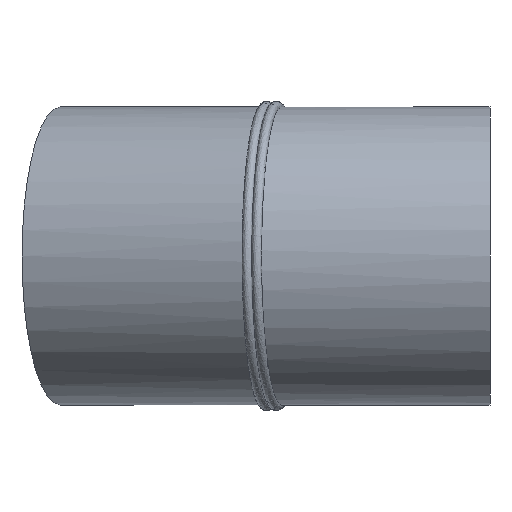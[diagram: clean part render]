
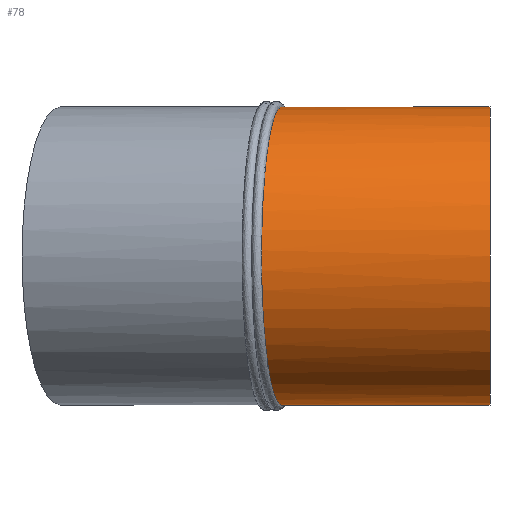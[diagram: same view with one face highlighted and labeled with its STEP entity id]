
A CAD part, left-side view. The second image highlights one B-rep face of the part: STEP entity #78.
In plain terms, the highlighted cylindrical face has radius 225 mm (diameter 450 mm), a full revolution.
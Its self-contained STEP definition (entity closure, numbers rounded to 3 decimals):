
#32=B_SPLINE_CURVE_WITH_KNOTS('',3,(#131,#132,#133,#134,#135,#136,#137,
#138,#139,#140,#141,#142,#143,#144,#145,#146,#147,#148,#149,#150,#151,#152,
#153,#154,#155,#156,#157,#158,#159,#160,#161,#162,#163,#164,#165,#166,#167,
#168,#169,#170,#171,#172,#173,#174,#175,#176,#177,#178,#179,#180,#181,#182,
#183,#184,#185,#186,#187,#188,#189,#190,#191,#192,#193,#194,#195,#196,#197,
#198,#199,#200,#201,#202,#203,#204,#205,#206,#207,#208,#209,#210,#211,#212,
#213,#214,#215,#216,#217),.UNSPECIFIED.,.T.,.F.,(1,1,1,1,1,1,1,1,1,1,1,
1,1,1,1,1,1,1,1,1,1,1,1,1,1,1,1,1,1,1,1,1,1,1,1,1,1,1,1,1,1,1,1,1,1,1,1,
1,1,1,1,1,1,1,1,1,1,1,1,1,1,1,1,1,1,1,1,1,1,1,1,1,1,1,1,1,1,1,1,1,1,1,1,
1,1,1,1,1,1,1,1),(-0.056,-0.045,-0.022,
0.,0.022,0.045,0.067,
0.089,0.1,0.111,0.134,
0.156,0.178,0.2,0.212,
0.223,0.234,0.245,0.267,
0.29,0.301,0.312,0.323,
0.334,0.345,0.356,0.379,
0.401,0.412,0.423,0.446,
0.468,0.479,0.49,0.512,
0.535,0.557,0.568,0.579,
0.601,0.624,0.646,0.668,
0.691,0.702,0.713,0.735,
0.757,0.78,0.791,0.802,
0.813,0.824,0.846,0.869,
0.891,0.902,0.913,0.936,
0.958,0.969,0.98,1.002,
1.025,1.047,1.069,1.092,1.114,
1.125,1.136,1.158,1.181,1.203,
1.225,1.236,1.247,1.259,1.27,
1.281,1.292,1.314,1.337,1.348,
1.359,1.37,1.381,1.403,1.426,
1.448,1.47,1.492),.UNSPECIFIED.);
#34=ORIENTED_EDGE('',*,*,#44,.T.);
#35=ORIENTED_EDGE('',*,*,#45,.F.);
#44=EDGE_CURVE('',#49,#49,#54,.T.);
#45=EDGE_CURVE('',#50,#50,#32,.T.);
#49=VERTEX_POINT('',#130);
#50=VERTEX_POINT('',#218);
#54=CIRCLE('',#99,225.);
#56=EDGE_LOOP('',(#34));
#57=EDGE_LOOP('',(#35));
#66=FACE_BOUND('',#56,.T.);
#67=FACE_BOUND('',#57,.T.);
#76=CYLINDRICAL_SURFACE('',#98,225.);
#78=ADVANCED_FACE('',(#66,#67),#76,.T.);
#98=AXIS2_PLACEMENT_3D('',#128,#109,#110);
#99=AXIS2_PLACEMENT_3D('',#129,#111,#112);
#109=DIRECTION('',(0.,-1.,0.));
#110=DIRECTION('',(0.,0.,-1.));
#111=DIRECTION('',(0.,1.,0.));
#112=DIRECTION('',(1.,0.,0.));
#128=CARTESIAN_POINT('',(0.,650.,0.));
#129=CARTESIAN_POINT('',(0.,0.,0.));
#130=CARTESIAN_POINT('',(225.,0.,0.));
#131=CARTESIAN_POINT('',(21.996,311.701,-224.278));
#132=CARTESIAN_POINT('',(0.03,314.616,-225.362));
#133=CARTESIAN_POINT('',(-22.115,317.559,-224.273));
#134=CARTESIAN_POINT('',(-43.805,320.447,-221.055));
#135=CARTESIAN_POINT('',(-65.084,323.283,-215.757));
#136=CARTESIAN_POINT('',(-82.476,325.607,-209.565));
#137=CARTESIAN_POINT('',(-95.933,327.406,-203.623));
#138=CARTESIAN_POINT('',(-109.13,329.172,-197.004));
#139=CARTESIAN_POINT('',(-124.909,331.286,-187.58));
#140=CARTESIAN_POINT('',(-142.754,333.679,-174.38));
#141=CARTESIAN_POINT('',(-159.,335.862,-159.696));
#142=CARTESIAN_POINT('',(-171.294,337.515,-146.209));
#143=CARTESIAN_POINT('',(-180.356,338.734,-134.676));
#144=CARTESIAN_POINT('',(-186.777,339.599,-125.621));
#145=CARTESIAN_POINT('',(-192.742,340.403,-116.26));
#146=CARTESIAN_POINT('',(-200.057,341.388,-103.431));
#147=CARTESIAN_POINT('',(-208.036,342.465,-86.663));
#148=CARTESIAN_POINT('',(-214.296,343.309,-69.27));
#149=CARTESIAN_POINT('',(-218.28,343.847,-54.956));
#150=CARTESIAN_POINT('',(-220.725,344.178,-44.118));
#151=CARTESIAN_POINT('',(-222.632,344.435,-33.182));
#152=CARTESIAN_POINT('',(-224.002,344.619,-22.127));
#153=CARTESIAN_POINT('',(-224.821,344.73,-11.027));
#154=CARTESIAN_POINT('',(-225.182,344.78,3.77));
#155=CARTESIAN_POINT('',(-224.255,344.653,22.349));
#156=CARTESIAN_POINT('',(-221.516,344.284,40.643));
#157=CARTESIAN_POINT('',(-218.233,343.841,55.143));
#158=CARTESIAN_POINT('',(-214.266,343.305,69.35));
#159=CARTESIAN_POINT('',(-208.059,342.468,86.583));
#160=CARTESIAN_POINT('',(-200.213,341.409,103.122));
#161=CARTESIAN_POINT('',(-192.94,340.429,115.932));
#162=CARTESIAN_POINT('',(-184.988,339.358,128.454));
#163=CARTESIAN_POINT('',(-173.977,337.875,143.251));
#164=CARTESIAN_POINT('',(-159.025,335.865,159.687));
#165=CARTESIAN_POINT('',(-145.342,334.027,172.035));
#166=CARTESIAN_POINT('',(-133.673,332.461,181.1));
#167=CARTESIAN_POINT('',(-121.626,330.846,189.544));
#168=CARTESIAN_POINT('',(-105.761,328.72,199.003));
#169=CARTESIAN_POINT('',(-85.799,326.051,208.39));
#170=CARTESIAN_POINT('',(-64.939,323.264,215.799));
#171=CARTESIAN_POINT('',(-43.76,320.441,221.061));
#172=CARTESIAN_POINT('',(-25.772,318.046,223.727));
#173=CARTESIAN_POINT('',(-11.199,316.108,224.811));
#174=CARTESIAN_POINT('',(3.534,314.151,225.183));
#175=CARTESIAN_POINT('',(21.856,311.72,224.298));
#176=CARTESIAN_POINT('',(43.746,308.821,221.074));
#177=CARTESIAN_POINT('',(61.553,306.466,216.636));
#178=CARTESIAN_POINT('',(75.566,304.615,212.027));
#179=CARTESIAN_POINT('',(85.859,303.257,208.071));
#180=CARTESIAN_POINT('',(95.944,301.927,203.619));
#181=CARTESIAN_POINT('',(109.135,300.189,197.002));
#182=CARTESIAN_POINT('',(124.931,298.11,187.565));
#183=CARTESIAN_POINT('',(142.769,295.766,174.371));
#184=CARTESIAN_POINT('',(156.428,293.973,162.021));
#185=CARTESIAN_POINT('',(166.652,292.632,151.305));
#186=CARTESIAN_POINT('',(176.271,291.371,140.17));
#187=CARTESIAN_POINT('',(187.175,289.943,125.5));
#188=CARTESIAN_POINT('',(196.611,288.709,109.834));
#189=CARTESIAN_POINT('',(203.261,287.839,96.701));
#190=CARTESIAN_POINT('',(209.307,287.049,83.136));
#191=CARTESIAN_POINT('',(215.564,286.232,65.744));
#192=CARTESIAN_POINT('',(221.007,285.521,44.104));
#193=CARTESIAN_POINT('',(224.26,285.097,22.253));
#194=CARTESIAN_POINT('',(225.367,284.952,0.052));
#195=CARTESIAN_POINT('',(224.27,285.095,-22.219));
#196=CARTESIAN_POINT('',(221.525,285.453,-40.587));
#197=CARTESIAN_POINT('',(218.264,285.879,-55.02));
#198=CARTESIAN_POINT('',(214.277,286.4,-69.331));
#199=CARTESIAN_POINT('',(208.01,287.219,-86.73));
#200=CARTESIAN_POINT('',(198.418,288.473,-106.859));
#201=CARTESIAN_POINT('',(187.054,289.959,-125.68));
#202=CARTESIAN_POINT('',(176.143,291.388,-140.33));
#203=CARTESIAN_POINT('',(166.551,292.645,-151.415));
#204=CARTESIAN_POINT('',(158.902,293.648,-159.424));
#205=CARTESIAN_POINT('',(150.859,294.704,-167.055));
#206=CARTESIAN_POINT('',(142.48,295.804,-174.256));
#207=CARTESIAN_POINT('',(133.75,296.951,-181.044));
#208=CARTESIAN_POINT('',(121.65,298.542,-189.529));
#209=CARTESIAN_POINT('',(105.86,300.62,-198.951));
#210=CARTESIAN_POINT('',(89.15,302.823,-206.814));
#211=CARTESIAN_POINT('',(75.435,304.633,-212.073));
#212=CARTESIAN_POINT('',(64.938,306.019,-215.52));
#213=CARTESIAN_POINT('',(54.294,307.426,-218.443));
#214=CARTESIAN_POINT('',(40.024,309.314,-221.622));
#215=CARTESIAN_POINT('',(21.996,311.701,-224.278));
#216=CARTESIAN_POINT('',(0.03,314.616,-225.362));
#217=CARTESIAN_POINT('',(-22.115,317.559,-224.273));
#218=CARTESIAN_POINT('',(0.,314.621,-225.));
